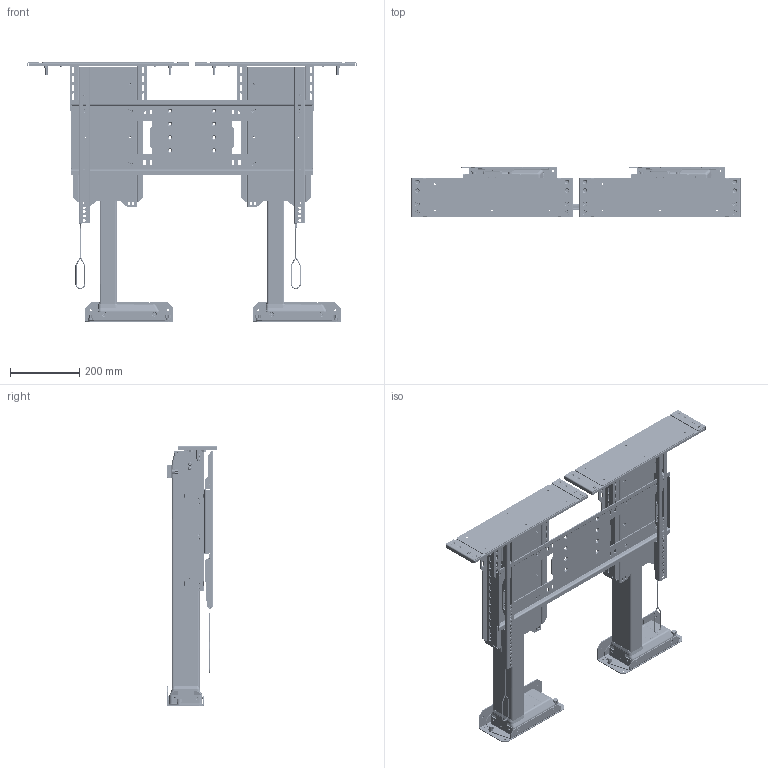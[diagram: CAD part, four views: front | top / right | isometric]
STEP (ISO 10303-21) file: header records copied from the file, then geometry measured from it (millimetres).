
FILE_DESCRIPTION(/* description */ ('STEP AP242','CAx-IF Rec.Pracs.---Representation and Presentation of Product Manufacturing Information (PMI)---4.0---2014-10-13','CAx-IF Rec.Pracs.---3D Tessellated Geometry---0.4---2014-09-14','2;1'),/* implementation_level */ '2;1');
FILE_NAME(/* name */ '63effc86e841dc281484817b',/* time_stamp */ '2023-02-17T22:15:39+00:00',/* author */ (''),/* organization */ (''),/* preprocessor_version */ 'ST-DEVELOPER v18.102',/* originating_system */ ' ',/* authorisation */ ' ');
FILE_SCHEMA (('AP242_MANAGED_MODEL_BASED_3D_ENGINEERING_MIM_LF { 1 0 10303 442 1 1 4 }'));
Products named in the file (70): ML-65; Socket button head screw M6x1 x 12; Hex socket countersunk head screw M6x1 x 12; Hex socket countersunk head screw M6x1 x 16; WDS8151-215; L-65 Lower Sub Assembly <2>; ULS-NX-002 - ULS QUICK RELEASE LC MOUNT; ULS-NX-004 - ULS COLUMN CLAMP; ULS-NX-022 - ULS REAR SUPPORT <1>; PEM FHS-M6-12  ; ULS-NX-022 - ULS REAR SUPPORT; DL16XL_STANDART_ASM <1>; L45 LC Inner Profile; L45 LC Middle Profile; L45 LC Motor Housing; ULS-NX-001 - ULS QUICK RELEASE BASE MOUNT W/ PEMS <1>; ULS-NX-001 - ULS QUICK RELEASE BASE MOUNT; L-65 Lower Sub Assembly <1>; ULS-NX-108 - ULS SCREEN SUPPORT WELDMENT <2>; PEM CLS-M6-1  ; F-M6-3 M6 PEM NUT; ULS-NX-009 - ULS SCREEN SUPPORT TOP PLATE <1>; ULS-NX-009 - UL SCREEN SUPPORT TOP PLATE; ULS-NX-008 - UL SCREEN SUPPORT SHELL; Lid Plate Assembly W/ Lid Supports <2>; ULS-NX-012 - ULS LID SUPPORT W PEMS <1>; UL LID SUPPORT (ULS-NX-012); PEM CLS-M6-2  ; ULS-NX-012 - ULS LID SUPPORT W PEMS <2>; LID-FL-ULS - ULS Lid Plate Assembly <1>; ULS-NX-006 - Lid Adapter W/ Pin <1>; OLD_ULS-NX-006 - UL LID ADAPTER <1>; ULS-NX-006 - UL LID ADAPTER; FHS-273-24 PEM; FL Sub Asm <1>; Hex nut grade C M6x1; ULS-NX-007 - UL LID PLATE EXTENDER; Plain washer large grade A M6; Hex socket countersunk head screw M6x1 x 8; 97069A106_Zinc-Plated Steel Spring Lock Washer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
Assembly tree (302 placements, depth 6):
  ML-65
    Socket button head screw M6x1 x 12  x16
    Hex socket countersunk head screw M6x1 x 12  x24
    Hex socket countersunk head screw M6x1 x 16  x8
    WDS8151-215  x8
    L-65 Lower Sub Assembly <2>
      ULS-NX-002 - ULS QUICK RELEASE LC MOUNT
      ULS-NX-004 - ULS COLUMN CLAMP
      ULS-NX-022 - ULS REAR SUPPORT <1>
        PEM FHS-M6-12    x2
        ULS-NX-022 - ULS REAR SUPPORT
      DL16XL_STANDART_ASM <1>
        L45 LC Inner Profile
        L45 LC Middle Profile
        L45 LC Motor Housing
      ULS-NX-001 - ULS QUICK RELEASE BASE MOUNT W/ PEMS <1>
        PEM FHS-M6-12    x2
        ULS-NX-001 - ULS QUICK RELEASE BASE MOUNT
    L-65 Lower Sub Assembly <1>
      DL16XL_STANDART_ASM <1>
        L45 LC Inner Profile
        L45 LC Middle Profile
        L45 LC Motor Housing
      ULS-NX-002 - ULS QUICK RELEASE LC MOUNT
      ULS-NX-004 - ULS COLUMN CLAMP
      ULS-NX-022 - ULS REAR SUPPORT <1>
        PEM FHS-M6-12    x2
        ULS-NX-022 - ULS REAR SUPPORT
      ULS-NX-001 - ULS QUICK RELEASE BASE MOUNT W/ PEMS <1>
        PEM FHS-M6-12    x2
        ULS-NX-001 - ULS QUICK RELEASE BASE MOUNT
    ULS-NX-108 - ULS SCREEN SUPPORT WELDMENT <2>
      PEM CLS-M6-1    x32
      F-M6-3 M6 PEM NUT
      ULS-NX-009 - ULS SCREEN SUPPORT TOP PLATE <1>
        PEM CLS-M6-1    x4
        ULS-NX-009 - UL SCREEN SUPPORT TOP PLATE
      ULS-NX-008 - UL SCREEN SUPPORT SHELL
    Lid Plate Assembly W/ Lid Supports <2>
      ULS-NX-012 - ULS LID SUPPORT W PEMS <1>
        UL LID SUPPORT (ULS-NX-012)
        PEM CLS-M6-2    x2
      ULS-NX-012 - ULS LID SUPPORT W PEMS <2>
        PEM CLS-M6-2    x2
        UL LID SUPPORT (ULS-NX-012)
      LID-FL-ULS - ULS Lid Plate Assembly <1>
        ULS-NX-006 - Lid Adapter W/ Pin <1>
          OLD_ULS-NX-006 - UL LID ADAPTER <1>
            ULS-NX-006 - UL LID ADAPTER
            FHS-273-24 PEM  x2
        FL Sub Asm <1>
          Hex nut grade C M6x1  x4
          ULS-NX-007 - UL LID PLATE EXTENDER  x2
          Plain washer large grade A M6  x4
          Hex socket countersunk head screw M6x1 x 8  x4
          97069A106_Zinc-Plated Steel Spring Lock Washer  x4
          NEX-LM-032 LID PIN GUIDE  x2
          ULS-NX-005 - UL LID PLATE W PEMS <1>
            PEM CLS-M6-2    x8
            PEM FHS-M6-15    x4
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Bounding box: 947.89 x 146.38 x 750.69 mm (x, y, z)
Volume: 16957121.9 mm3; surface area: 3248150.9 mm2
Topology: 271 solids, 271 shells, 20596 faces, 55172 edges, 35786 vertices
Faces by surface type: plane 14338, cylinder 3510, cone 1368, bspline 926, torus 392, sphere 62
Full cylindrical faces by diameter (mm): 2.032 x14, 2.642 x4, 3.175 x10, 3.505 x4, 4.6 x4, 4.917 x106, 5 x24, 5.026 x4, 5.08 x4, 5.277 x8, 5.3 x12, 5.385 x12, 5.41 x8, 5.6 x8, 5.613 x12, 5.944 x4, 5.994 x4, 6 x124, 6.35 x24, 6.4 x8, 6.528 x8, 6.6 x4, 6.604 x8, 6.655 x4, 6.934 x4, 6.976 x2, 7.112 x2, 7.239 x4, 7.62 x4, 7.925 x4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
Entity records: 99155 total; most frequent: CARTESIAN_POINT 19221, DIRECTION 15694, ORIENTED_EDGE 14984, EDGE_CURVE 7492, AXIS2_PLACEMENT_3D 5427, VERTEX_POINT 4979, LINE 4840, VECTOR 4840
